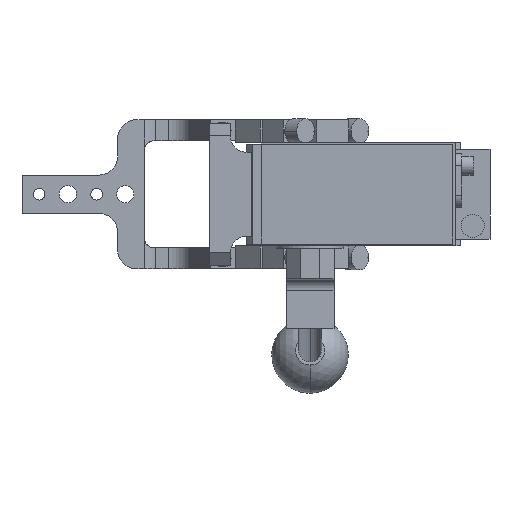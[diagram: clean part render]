
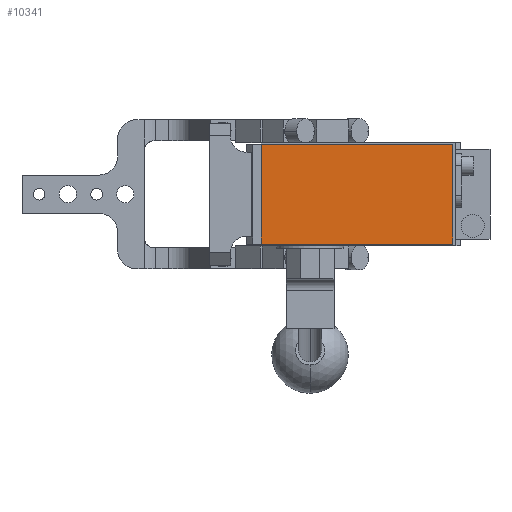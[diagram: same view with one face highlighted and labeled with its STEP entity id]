
A CAD part, front view. The second image highlights one B-rep face of the part: STEP entity #10341.
In plain terms, the highlighted planar face has unit normal (0, -1, 0).
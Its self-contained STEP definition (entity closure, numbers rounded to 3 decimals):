
#201 = VECTOR ( 'NONE', #7333, 1000. ) ;
#295 = DIRECTION ( 'NONE',  ( 0., -1., 0. ) ) ;
#420 = CARTESIAN_POINT ( 'NONE',  ( 81., -286.5, -26. ) ) ;
#1450 = PLANE ( 'NONE',  #5143 ) ;
#1696 = ORIENTED_EDGE ( 'NONE', *, *, #6026, .T. ) ;
#1896 = ORIENTED_EDGE ( 'NONE', *, *, #6442, .T. ) ;
#2376 = CARTESIAN_POINT ( 'NONE',  ( -19., -286.5, 26. ) ) ;
#3292 = VERTEX_POINT ( 'NONE', #11102 ) ;
#3599 = LINE ( 'NONE', #2376, #10840 ) ;
#3755 = ORIENTED_EDGE ( 'NONE', *, *, #7790, .T. ) ;
#4919 = LINE ( 'NONE', #6310, #13197 ) ;
#5143 = AXIS2_PLACEMENT_3D ( 'NONE', #11350, #295, #6439 ) ;
#6026 = EDGE_CURVE ( 'NONE', #3292, #12751, #14087, .T. ) ;
#6310 = CARTESIAN_POINT ( 'NONE',  ( -19., -286.5, 26. ) ) ;
#6401 = ORIENTED_EDGE ( 'NONE', *, *, #16052, .T. ) ;
#6439 = DIRECTION ( 'NONE',  ( 0., 0., -1. ) ) ;
#6442 = EDGE_CURVE ( 'NONE', #12751, #11312, #13428, .T. ) ;
#6491 = CARTESIAN_POINT ( 'NONE',  ( -19., -286.5, 26. ) ) ;
#6651 = DIRECTION ( 'NONE',  ( 1., 0., 0. ) ) ;
#7333 = DIRECTION ( 'NONE',  ( 0., 0., 1. ) ) ;
#7790 = EDGE_CURVE ( 'NONE', #10573, #3292, #4919, .T. ) ;
#8241 = VECTOR ( 'NONE', #6651, 1000. ) ;
#8862 = CARTESIAN_POINT ( 'NONE',  ( -19., -286.5, -26. ) ) ;
#9056 = FACE_OUTER_BOUND ( 'NONE', #10437, .T. ) ;
#9758 = CARTESIAN_POINT ( 'NONE',  ( 81., -286.5, 26. ) ) ;
#10012 = CARTESIAN_POINT ( 'NONE',  ( 81., -286.5, 26. ) ) ;
#10341 = ADVANCED_FACE ( 'NONE', ( #9056 ), #1450, .T. ) ;
#10437 = EDGE_LOOP ( 'NONE', ( #3755, #1696, #1896, #6401 ) ) ;
#10573 = VERTEX_POINT ( 'NONE', #6491 ) ;
#10840 = VECTOR ( 'NONE', #11543, 1000. ) ;
#11102 = CARTESIAN_POINT ( 'NONE',  ( -19., -286.5, -26. ) ) ;
#11312 = VERTEX_POINT ( 'NONE', #10012 ) ;
#11350 = CARTESIAN_POINT ( 'NONE',  ( 0., -286.5, 0. ) ) ;
#11543 = DIRECTION ( 'NONE',  ( -1., 0., 0. ) ) ;
#12751 = VERTEX_POINT ( 'NONE', #420 ) ;
#13197 = VECTOR ( 'NONE', #13670, 1000. ) ;
#13428 = LINE ( 'NONE', #9758, #201 ) ;
#13670 = DIRECTION ( 'NONE',  ( 0., 0., -1. ) ) ;
#14087 = LINE ( 'NONE', #8862, #8241 ) ;
#16052 = EDGE_CURVE ( 'NONE', #11312, #10573, #3599, .T. ) ;
